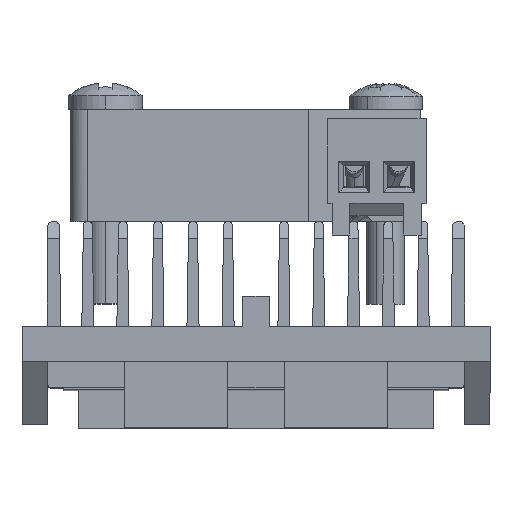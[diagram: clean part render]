
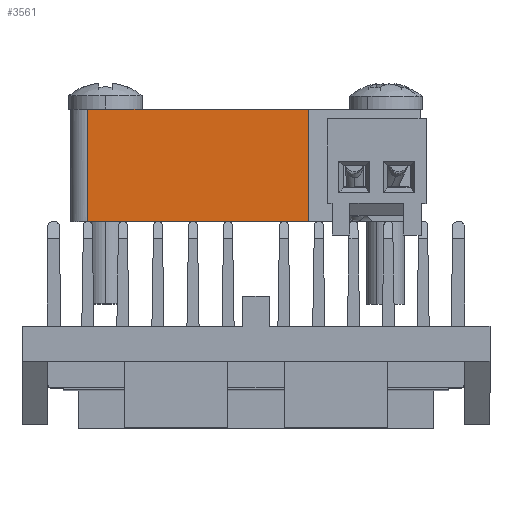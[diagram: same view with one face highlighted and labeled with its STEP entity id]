
A CAD part, top view. The second image highlights one B-rep face of the part: STEP entity #3561.
In plain terms, the highlighted planar face has unit normal (0, 0, 1).
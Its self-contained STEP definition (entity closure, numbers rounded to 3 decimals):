
#1059 = EDGE_LOOP ( 'NONE', ( #4683, #12241, #20610, #14899 ) ) ;
#1880 = EDGE_CURVE ( 'NONE', #13233, #14142, #9095, .T. ) ;
#2572 = DIRECTION ( 'NONE',  ( 0., 1., 0. ) ) ;
#3561 = ADVANCED_FACE ( 'NONE', ( #16668 ), #20211, .F. ) ;
#3994 = VECTOR ( 'NONE', #4483, 1000. ) ;
#4129 = EDGE_CURVE ( 'NONE', #9709, #10482, #19954, .T. ) ;
#4483 = DIRECTION ( 'NONE',  ( 1., 0., 0. ) ) ;
#4683 = ORIENTED_EDGE ( 'NONE', *, *, #18379, .F. ) ;
#5351 = CARTESIAN_POINT ( 'NONE',  ( 11.5, 24.541, 27.696 ) ) ;
#5630 = AXIS2_PLACEMENT_3D ( 'NONE', #7128, #7031, #13730 ) ;
#6208 = CARTESIAN_POINT ( 'NONE',  ( -1.1, 18.141, 27.696 ) ) ;
#6419 = VECTOR ( 'NONE', #17345, 1000. ) ;
#6979 = VECTOR ( 'NONE', #2572, 1000. ) ;
#7031 = DIRECTION ( 'NONE',  ( 0., 0., -1. ) ) ;
#7128 = CARTESIAN_POINT ( 'NONE',  ( 17.9, 24.641, 27.696 ) ) ;
#9095 = LINE ( 'NONE', #15902, #6979 ) ;
#9709 = VERTEX_POINT ( 'NONE', #5351 ) ;
#10113 = DIRECTION ( 'NONE',  ( -1., 0., 0. ) ) ;
#10482 = VERTEX_POINT ( 'NONE', #19456 ) ;
#10741 = VECTOR ( 'NONE', #10113, 1000. ) ;
#10977 = LINE ( 'NONE', #19313, #3994 ) ;
#11348 = CARTESIAN_POINT ( 'NONE',  ( -1.1, 24.541, 27.696 ) ) ;
#12241 = ORIENTED_EDGE ( 'NONE', *, *, #1880, .F. ) ;
#13233 = VERTEX_POINT ( 'NONE', #6208 ) ;
#13730 = DIRECTION ( 'NONE',  ( 0., -1., 0. ) ) ;
#14142 = VERTEX_POINT ( 'NONE', #11348 ) ;
#14899 = ORIENTED_EDGE ( 'NONE', *, *, #4129, .F. ) ;
#15709 = EDGE_CURVE ( 'NONE', #10482, #13233, #18023, .T. ) ;
#15902 = CARTESIAN_POINT ( 'NONE',  ( -1.1, 24.641, 27.696 ) ) ;
#16614 = CARTESIAN_POINT ( 'NONE',  ( 7.9, 18.141, 27.696 ) ) ;
#16668 = FACE_OUTER_BOUND ( 'NONE', #1059, .T. ) ;
#17345 = DIRECTION ( 'NONE',  ( 0., -1., 0. ) ) ;
#18023 = LINE ( 'NONE', #16614, #10741 ) ;
#18328 = CARTESIAN_POINT ( 'NONE',  ( 11.5, 24.641, 27.696 ) ) ;
#18379 = EDGE_CURVE ( 'NONE', #14142, #9709, #10977, .T. ) ;
#19313 = CARTESIAN_POINT ( 'NONE',  ( 17.9, 24.541, 27.696 ) ) ;
#19456 = CARTESIAN_POINT ( 'NONE',  ( 11.5, 18.141, 27.696 ) ) ;
#19954 = LINE ( 'NONE', #18328, #6419 ) ;
#20211 = PLANE ( 'NONE',  #5630 ) ;
#20610 = ORIENTED_EDGE ( 'NONE', *, *, #15709, .F. ) ;
